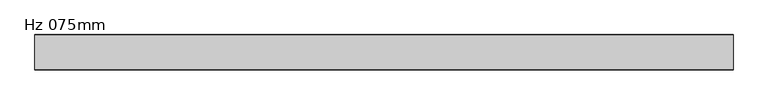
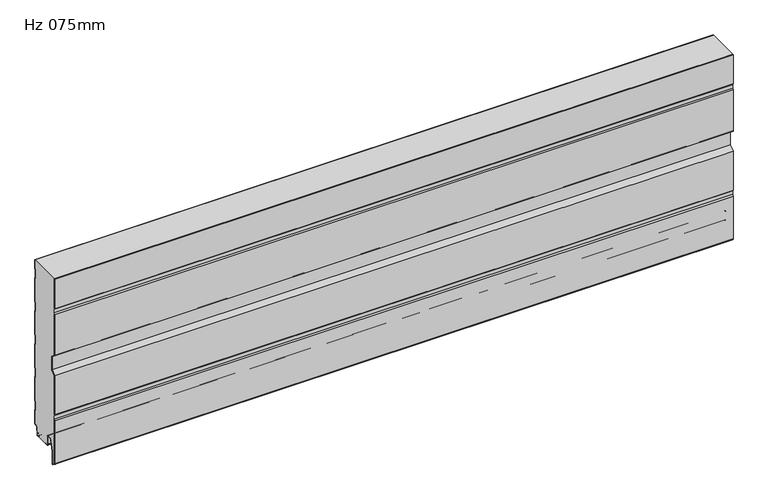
"""IFC4 building model written with IfcOpenShell, lengths in millimetres: plate geometry, KIP-MEX-KW-R19-CP-Hz-KW7_SL : Hz 075mm."""

from ifc_helpers import new_model, si_unit, point, frame, frame_2d, origin, place, context, project, spatial, polyline, circle_curve, trimmed, segment, composite_curve, outline, extrude, source, transform, mapped, element, save


def hz_075mm_1ae5ef9f(model_context):
    return source(origin(), model_context, "Body", "SweptSolid", [
        extrude(outline(composite_curve([segment(polyline([(-14.168539, 7.9539868), (-13.6621069, 2.1654409)]), True, "CONTINUOUS"), segment(trimmed(circle_curve(frame_2d((-11.1716202, 2.3833303)), 2.5), [point((-13.6621069, 2.1654409))], [point((-11.9264293, 0.0))], True, "CARTESIAN"), True, "CONTINUOUS"), segment(polyline([(-11.9264293, 0.0), (-43.737817, 0.0)]), True, "CONTINUOUS"), segment(trimmed(circle_curve(frame_2d((-43.737817, 2.4986532)), 2.4986532), [point((-43.737817, 0.0))], [point((-41.2391638, 2.4986532))], True, "CARTESIAN"), True, "CONTINUOUS"), segment(polyline([(-41.2391638, 2.4986532), (-41.2391638, 6.9975309), (-42.2393619, 6.9975309), (-42.2393619, 2.4989009)]), True, "CONTINUOUS"), segment(trimmed(circle_curve(frame_2d((-43.737718, 2.4989009)), 1.4983561), [point((-42.2393619, 2.4989009))], [point((-43.737718, 1.0005448))], False, "CARTESIAN"), True, "CONTINUOUS"), segment(polyline([(-43.737718, 1.0005448), (-45.2871287, 1.0005448)]), True, "CONTINUOUS"), segment(trimmed(circle_curve(frame_2d((-45.2871287, 2.4946541)), 1.4941093), [point((-45.2871287, 1.0005448))], [point((-46.781238, 2.4946541))], False, "CARTESIAN"), True, "CONTINUOUS"), segment(polyline([(-46.781238, 2.4946541), (-46.781238, 21.0181667)]), True, "CONTINUOUS"), segment(trimmed(circle_curve(frame_2d((-49.8021238, 21.0181667)), 3.0208858), [point((-46.781238, 21.0181667))], [point((-49.8021238, 24.0390526))], True, "CARTESIAN"), True, "CONTINUOUS"), segment(polyline([(-49.8021238, 24.0390526), (-57.2693804, 24.0390526)]), True, "CONTINUOUS"), segment(trimmed(circle_curve(frame_2d((-57.2693804, 21.0499553)), 2.9890972), [point((-57.2693804, 24.0390526))], [point((-60.1423641, 21.8749809))], True, "CARTESIAN"), True, "CONTINUOUS"), segment(polyline([(-60.1423641, 21.8749809), (-67.2405983, -2.8431766), (-67.2405983, -31.2013392), (-73.9952121, -25.9234803), (-73.9952121, 73.3517798), (-72.4952095, 76.3519667), (-72.4952095, 84.8240769), (-73.9952121, 87.8242639), (-73.9952121, 177.1076357), (-63.9952121, 185.1076357), (-63.9952121, 216.0688854), (-73.9952121, 224.0688854), (-73.9952121, 318.3520185), (-72.4952095, 321.3522055), (-72.4952095, 329.8243157), (-73.9952121, 332.8245026), (-73.9952121, 400.0520896), (-0.9944609, 400.0520896), (-0.9944609, 379.6094183), (-2.1939601, 378.522894), (-2.1939601, 358.5909157), (-0.9944609, 357.5058172), (-0.9944609, 303.4565335), (-2.1939601, 302.3700093), (-2.1939601, 282.4380309), (-0.9944609, 281.3529324), (-0.9944609, 227.3036488), (-2.1939601, 226.2171245), (-2.1939601, 206.2851462), (-0.9944609, 205.2000477), (-0.9944609, 151.150764), (-2.1939601, 150.0642397), (-2.1939601, 130.1322614), (-0.9944609, 129.0471629), (-0.9944609, 74.9978793), (-2.1939601, 73.911355), (-2.1939601, 53.9793766), (-0.9952121, 52.8942781), (-0.9952121, 21.2882606), (-4.4952121, 21.2882606)]), True, "CONTINUOUS"), segment(trimmed(circle_curve(frame_2d((-4.4952121, 18.2882606)), 3.0), [point((-4.4952121, 21.2882606))], [point((-7.4839175, 18.5483373))], True, "CARTESIAN"), True, "CONTINUOUS"), segment(polyline([(-7.4839175, 18.5483373), (-8.9019103, 2.2532919)]), True, "CONTINUOUS"), segment(trimmed(circle_curve(frame_2d((-10.396263, 2.3833303)), 1.4999999), [point((-8.9019103, 2.2532919))], [point((-9.8221897, 0.997531))], False, "CARTESIAN"), True, "CONTINUOUS"), segment(polyline([(-9.8221897, 0.997531), (-11.7456936, 0.997531)]), True, "CONTINUOUS"), segment(trimmed(circle_curve(frame_2d((-11.1716202, 2.3833303)), 1.5), [point((-11.7456936, 0.997531))], [point((-12.6659122, 2.2525966))], False, "CARTESIAN"), True, "CONTINUOUS"), segment(polyline([(-12.6659122, 2.2525966), (-13.1723443, 8.0411425), (-14.168539, 7.9539868)]), True, "CONTINUOUS")], self_intersect=False)), frame((-740.0, 0.0, 0.0), z_axis=(1.0, 0.0, 0.0), x_axis=(0.0, 1.0, 0.0)), (0.0, 0.0, 1.0), 1480.0),
        extrude(outline(composite_curve([segment(polyline([(-1.1923863, 378.0794496), (-1.1923863, 359.0343601), (0.0055391, 357.9478358), (0.0055391, 303.0116636), (-1.1923863, 301.9265649), (-1.1923863, 282.8814753), (0.0055391, 281.794951), (0.0055391, 226.8587788), (-1.1923863, 225.7736801), (-1.1923863, 206.7285905), (0.0055391, 205.6420663), (0.0055391, 150.7058941), (-1.1923863, 149.6207954), (-1.1923863, 130.5757058), (0.0071129, 129.4891815), (0.0071129, 74.5544349), (-1.1923863, 73.4679106), (-1.1923863, 54.422821), (0.0, 53.3377223), (0.0, 21.7710722)]), True, "CONTINUOUS"), segment(trimmed(circle_curve(frame_2d((-1.4908763, 21.7710722)), 1.4908762), [point((0.0, 21.7710722))], [point((-1.4908763, 20.280196))], False, "CARTESIAN"), True, "CONTINUOUS"), segment(polyline([(-1.4908763, 20.280196), (-4.495104, 20.280196)]), True, "CONTINUOUS"), segment(trimmed(circle_curve(frame_2d((-4.495104, 18.2846098)), 1.9955862), [point((-4.495104, 20.280196))], [point((-6.4831424, 18.4580093))], True, "CARTESIAN"), True, "CONTINUOUS"), segment(polyline([(-6.4831424, 18.4580093), (-7.9041448, 2.1661016)]), True, "CONTINUOUS"), segment(trimmed(circle_curve(frame_2d((-10.3946892, 2.3833303)), 2.4999999), [point((-7.9041448, 2.1661016))], [point((-9.647721, -0.002469))], False, "CARTESIAN"), True, "CONTINUOUS"), segment(polyline([(-9.647721, -0.002469), (-11.9170147, -0.002469)]), True, "CONTINUOUS"), segment(trimmed(circle_curve(frame_2d((-11.1700464, 2.3833303)), 2.5), [point((-11.9170147, -0.002469))], [point((-13.6605331, 2.1654409))], False, "CARTESIAN"), True, "CONTINUOUS"), segment(polyline([(-13.6605331, 2.1654409), (-14.1669652, 7.9539868), (-13.1707705, 8.0411425), (-12.6643384, 2.2525966)]), True, "CONTINUOUS"), segment(trimmed(circle_curve(frame_2d((-11.1700464, 2.3833303)), 1.5), [point((-12.6643384, 2.2525966))], [point((-11.7441198, 0.997531))], True, "CARTESIAN"), True, "CONTINUOUS"), segment(polyline([(-11.7441198, 0.997531), (-9.8206159, 0.997531)]), True, "CONTINUOUS"), segment(trimmed(circle_curve(frame_2d((-10.3946892, 2.3833303)), 1.4999999), [point((-9.8206159, 0.997531))], [point((-8.9003365, 2.2532919))], True, "CARTESIAN"), True, "CONTINUOUS"), segment(polyline([(-8.9003365, 2.2532919), (-7.4823437, 18.5483373)]), True, "CONTINUOUS"), segment(trimmed(circle_curve(frame_2d((-4.4936383, 18.2882606)), 3.0), [point((-7.4823437, 18.5483373))], [point((-4.4936383, 21.2882606))], False, "CARTESIAN"), True, "CONTINUOUS"), segment(polyline([(-4.4936383, 21.2882606), (-0.9936383, 21.2882606), (-0.9936383, 52.8942781), (-2.1923863, 53.9793766), (-2.1923863, 73.911355), (-0.9928871, 74.9978793), (-0.9928871, 129.0457371), (-2.1923863, 130.1322614), (-2.1923863, 150.0642397), (-0.9928871, 151.150764), (-0.9928871, 205.1986219), (-2.1923863, 206.2851462), (-2.1923863, 226.2171245), (-0.9928871, 227.3036488), (-0.9928871, 281.3515066), (-2.1923863, 282.4380309), (-2.1923863, 302.3700093), (-0.9928871, 303.4565335), (-0.9928871, 357.5043914), (-2.1923863, 358.5909157), (-2.1923863, 378.522894), (-0.9928871, 379.6094183), (-0.9928871, 400.0520896), (0.0055391, 400.0520896), (0.0055391, 379.1645483), (-1.1923863, 378.0794496)]), True, "CONTINUOUS")], self_intersect=False)), frame((-740.0, 0.0, 0.0), z_axis=(1.0, 0.0, 0.0), x_axis=(0.0, 1.0, 0.0)), (0.0, 0.0, 1.0), 1480.0),
        extrude(outline(composite_curve([segment(polyline([(-73.9944609, 318.3520185), (-73.9944609, 224.0688854), (-63.9944609, 216.0688854), (-63.9944609, 185.1076357), (-73.9944609, 177.1076357), (-73.9944609, 87.8242639), (-72.4944584, 84.8240769), (-72.4944584, 76.3519667), (-73.9944609, 73.3517798), (-73.9944609, -25.9234803), (-67.2398472, -31.2013392), (-67.2398472, -2.8431766), (-60.1489481, 21.8858639)]), True, "CONTINUOUS"), segment(trimmed(circle_curve(frame_2d((-57.2651224, 21.0589447)), 3.0000411), [point((-60.1489481, 21.8858639))], [point((-57.2651224, 24.0589858))], False, "CARTESIAN"), True, "CONTINUOUS"), segment(polyline([(-57.2651224, 24.0589858), (-49.7896834, 24.0589858)]), True, "CONTINUOUS"), segment(trimmed(circle_curve(frame_2d((-49.7896834, 21.0590057)), 2.9999801), [point((-49.7896834, 24.0589858))], [point((-46.7922097, 20.9364005))], False, "CARTESIAN"), True, "CONTINUOUS"), segment(polyline([(-46.7922097, 20.9364005), (-46.7922097, 2.4975334)]), True, "CONTINUOUS"), segment(trimmed(circle_curve(frame_2d((-45.2922047, 2.4975334)), 1.500005), [point((-46.7922097, 2.4975334))], [point((-45.2922047, 0.9975284))], True, "CARTESIAN"), True, "CONTINUOUS"), segment(polyline([(-45.2922047, 0.9975284), (-43.7375153, 0.9975284)]), True, "CONTINUOUS"), segment(trimmed(circle_curve(frame_2d((-43.7375153, 2.4975298)), 1.5000014), [point((-43.7375153, 0.9975284))], [point((-42.2375139, 2.4975298))], True, "CARTESIAN"), True, "CONTINUOUS"), segment(polyline([(-42.2375139, 2.4975298), (-42.2375139, 6.997531), (-41.2384126, 6.997531), (-41.2384126, 2.4986532)]), True, "CONTINUOUS"), segment(trimmed(circle_curve(frame_2d((-43.7370659, 2.4986532)), 2.4986533), [point((-41.2384126, 2.4986532))], [point((-43.7370659, 0.0))], False, "CARTESIAN"), True, "CONTINUOUS"), segment(polyline([(-43.7370659, 0.0), (-45.3087755, 0.0)]), True, "CONTINUOUS"), segment(trimmed(circle_curve(frame_2d((-45.2873377, 2.4950818)), 2.4951739), [point((-45.3087755, 0.0))], [point((-47.7825116, 2.4950818))], False, "CARTESIAN"), True, "CONTINUOUS"), segment(polyline([(-47.7825116, 2.4950818), (-47.7825116, 21.0262634)]), True, "CONTINUOUS"), segment(trimmed(circle_curve(frame_2d((-49.799282, 21.0262634)), 2.0167704), [point((-47.7825116, 21.0262634))], [point((-49.799282, 23.0430338))], True, "CARTESIAN"), True, "CONTINUOUS"), segment(polyline([(-49.799282, 23.0430338), (-57.2679288, 23.0430338)]), True, "CONTINUOUS"), segment(trimmed(circle_curve(frame_2d((-57.2679288, 21.0517509)), 1.9912829), [point((-57.2679288, 23.0430338))], [point((-59.1819009, 21.6012219))], True, "CARTESIAN"), True, "CONTINUOUS"), segment(polyline([(-59.1819009, 21.6012219), (-66.2398454, -2.9837112), (-66.2398454, -31.1745677)]), True, "CONTINUOUS"), segment(trimmed(circle_curve(frame_2d((-67.239487, -31.2013392)), 1.0), [point((-66.2398454, -31.1745677))], [point((-67.8551698, -31.9893333))], False, "CARTESIAN"), True, "CONTINUOUS"), segment(polyline([(-67.8551698, -31.9893333), (-74.033668, -27.1618917)]), True, "CONTINUOUS"), segment(trimmed(circle_curve(frame_2d((-72.4944609, -25.1919066)), 2.5), [point((-74.033668, -27.1618917))], [point((-74.9944609, -25.1919066))], False, "CARTESIAN"), True, "CONTINUOUS"), segment(polyline([(-74.9944609, -25.1919066), (-74.9944609, 73.587835), (-73.4944584, 76.5880219), (-73.4944584, 84.5880218), (-74.9943675, 87.5880218), (-74.9943675, 177.5882606), (-64.9944609, 185.5882606), (-64.9944609, 215.5882606), (-74.9944609, 223.5882606), (-74.9944609, 318.5880737), (-73.4944584, 321.5882607), (-73.4944584, 329.5882605), (-74.9943675, 332.5882605), (-74.9943675, 400.0520896), (-73.9944609, 400.0520896), (-73.9944609, 332.8245026), (-72.4944584, 329.8243157), (-72.4944584, 321.3522055), (-73.9944609, 318.3520185)]), True, "CONTINUOUS")], self_intersect=False)), frame((-740.0, 0.0, 0.0), z_axis=(1.0, 0.0, 0.0), x_axis=(0.0, 1.0, 0.0)), (0.0, 0.0, 1.0), 1480.0),
    ])


if __name__ == "__main__":
    model = new_model("IFC4")
    model_context = context("Model", 3, world=origin())
    ifc_project = project(units=[si_unit("LENGTHUNIT", "METRE", prefix="MILLI")], contexts=[model_context])
    site = spatial("IfcSite", under=ifc_project)
    building = spatial("IfcBuilding", under=site)
    placement = place(None, origin())
    hz_075mm_shape = hz_075mm_1ae5ef9f(model_context)
    element("IfcPlate", 1, ObjectType="KIP-MEX-KW-R19-CP-Hz-KW7_SL : Hz 075mm", at=placement, inside=building, context=model_context, shape_type="MappedRepresentation", body=[
        mapped(hz_075mm_shape, transform((0.0, 0.0, 0.0), x_axis=(1.0, 0.0, 0.0), y_axis=(0.0, 1.0, 0.0), z_axis=(0.0, 0.0, 1.0))),
    ])
    save(model, "model.ifc")
